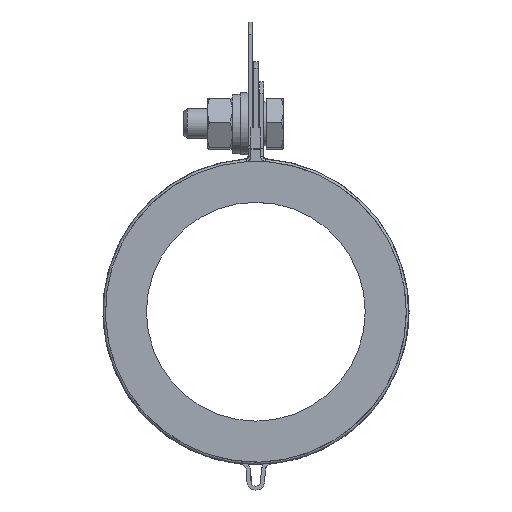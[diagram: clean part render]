
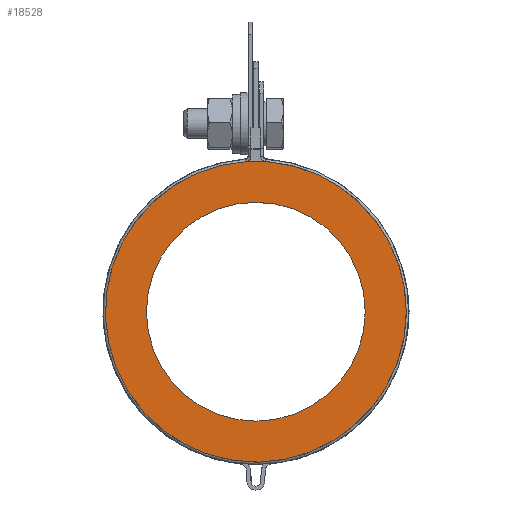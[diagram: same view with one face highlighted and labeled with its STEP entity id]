
A CAD part, front view. The second image highlights one B-rep face of the part: STEP entity #18528.
In plain terms, the highlighted planar face has unit normal (0, -1, 0).
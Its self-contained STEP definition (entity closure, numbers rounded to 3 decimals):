
#320=FACE_BOUND($,#3296,.T.);
#1056=PLANE($,#20383);
#2045=FACE_OUTER_BOUND($,#3295,.T.);
#3295=EDGE_LOOP($,(#16001));
#3296=EDGE_LOOP($,(#16002));
#7176=CIRCLE($,#20200,30.25);
#7181=CIRCLE($,#20380,22.);
#8823=VERTEX_POINT($,#30736);
#8834=VERTEX_POINT($,#30937);
#11222=EDGE_CURVE($,#8823,#8823,#7176,.T.);
#11237=EDGE_CURVE($,#8834,#8834,#7181,.T.);
#16001=ORIENTED_EDGE($,*,*,#11222,.T.);
#16002=ORIENTED_EDGE($,*,*,#11237,.T.);
#18528=ADVANCED_FACE($,(#2045,#320),#1056,.T.);
#20200=AXIS2_PLACEMENT_3D($,#30737,#25148,#25149);
#20380=AXIS2_PLACEMENT_3D($,#30938,#25518,#25519);
#20383=AXIS2_PLACEMENT_3D($,#30941,#25524,#25525);
#25148=DIRECTION('center_axis',(0.,-1.,0.));
#25149=DIRECTION('ref_axis',(-1.,0.,0.));
#25518=DIRECTION('center_axis',(0.,1.,0.));
#25519=DIRECTION('ref_axis',(1.,0.,0.));
#25524=DIRECTION('center_axis',(0.,-1.,0.));
#25525=DIRECTION('ref_axis',(0.,0.,-1.));
#30736=CARTESIAN_POINT('',(30.25,0.,0.));
#30737=CARTESIAN_POINT('Origin',(0.,0.,0.));
#30937=CARTESIAN_POINT('',(-22.,0.,0.));
#30938=CARTESIAN_POINT('Origin',(0.,0.,0.));
#30941=CARTESIAN_POINT('Origin',(0.,0.,0.));
